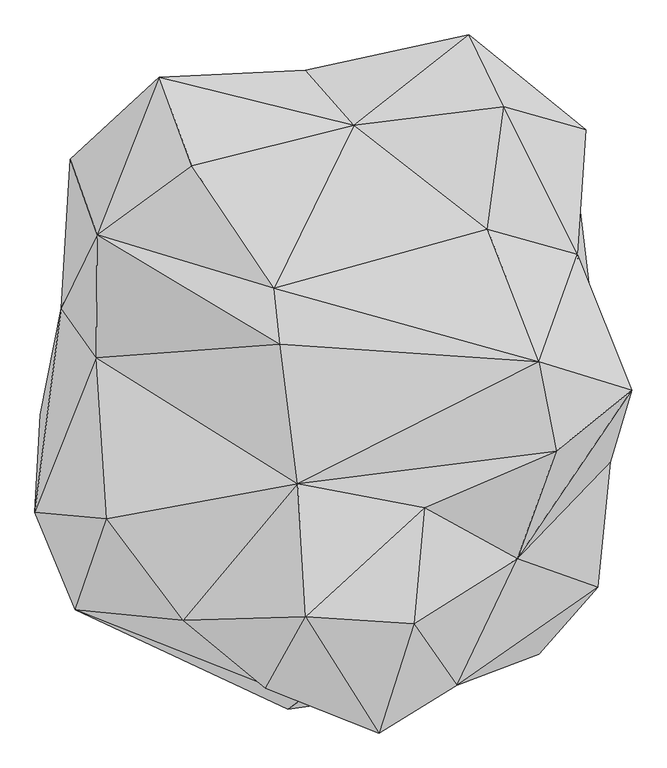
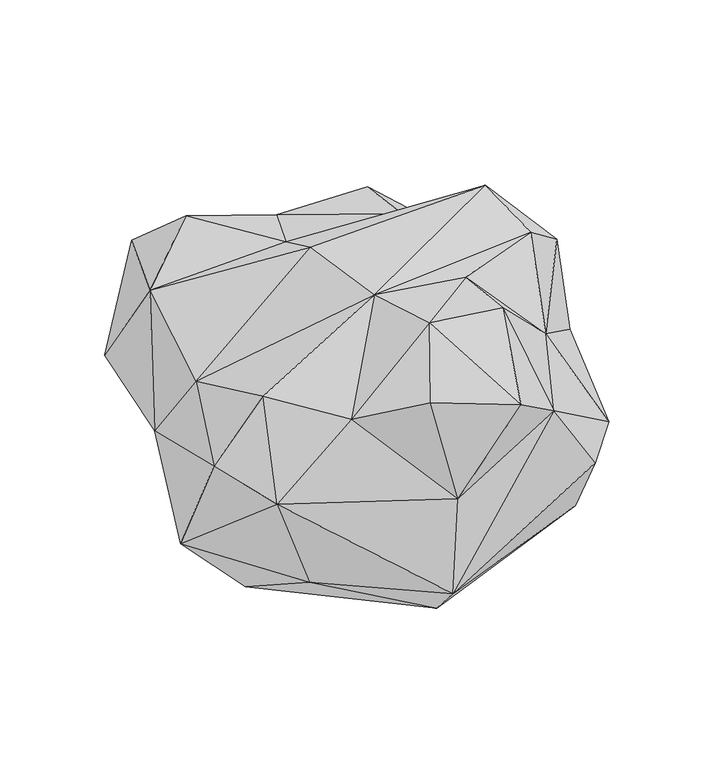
"""IFC4 building model written with IfcOpenShell, lengths in millimetres: geographic element geometry, Enscape AssetDefinition - Asparagaceae 001 Agave : Enscape AssetDefinition - Asparagaceae 001 Agave 2."""

from ifc_helpers import new_model, si_unit, origin, place, context, project, spatial, triangles, source, transform, mapped, element, save


def geographic_element_19c6f7b0(model_context):
    return source(origin(), model_context, "Body", "Tessellation", [
        triangles([(16.822162, 417.4084245, 63.8662734), (90.0067881, 83.3462117, 0.0), (-111.6196676, 270.3662733, 0.0), (239.4382011, 85.430514, 0.0), (173.173623, 556.4207969, 251.3887434), (72.341996, -49.7422172, 0.0), (-91.2387986, -418.7762552, 106.5872168), (302.5190709, -323.5726187, 176.2058507), (374.7595016, -43.7239073, 79.9119101), (-495.2339793, -30.2604735, 180.0659712), (-320.5206247, 427.7761783, 298.5197511), (-412.0061743, 40.5050176, 89.063786), (-376.1635583, -98.9306256, 68.2811883), (-325.9852258, -284.1118006, 174.2376205), (-99.3477877, -500.3124484, 196.8135681), (301.2844261, -412.4760947, 342.7063708), (-503.6264903, -185.9554554, 477.6111451), (-266.6909344, -358.3980366, 620.8636293), (-439.4118416, -342.0658576, 451.9769176), (-389.167125, -196.2933419, 624.6164526), (45.7223182, -538.6057506, 658.649041), (-77.9383932, -484.9647297, 426.0502298), (-71.3715247, -353.0729619, 800.0000061), (-405.8106949, 60.4784896, 514.5028613), (-461.5958799, 139.0452283, 357.7964745), (-404.2725257, 256.8836297, 630.5539536), (-305.1775569, 507.930152, 572.7960691), (-111.8664367, 82.0757951, 745.4638727), (-84.4061216, -140.9565125, 748.0018719), (-121.3321652, 170.7670475, 709.5040037), (6.0814982, 431.2802885, 576.7788202), (-253.5572157, 366.3517299, 704.7897566), (-302.7902753, 500.2044971, 378.8620854), (-447.4609869, 376.8720543, 404.5128817), (-71.6632584, 518.659657, 419.7307755), (189.810707, 575.3879531, 388.8560975), (218.6900126, 265.3987895, 605.8347502), (376.4731688, 424.1077249, 421.6971889), (245.6846403, 460.5231983, 547.1051591), (362.7958059, 225.510581, 509.4427414), (291.1192944, 452.6664468, 196.3388696), (449.7479476, 8.1157508, 614.9636261), (364.4218695, 319.2982793, 249.958798), (395.1691569, -306.1414879, 351.708256), (415.3710125, -106.64429, 462.9279934), (328.8881736, -89.2071912, 734.083172), (301.0840749, 54.0652319, 779.0806435), (266.9098346, -260.7151909, 596.3596745), (170.599525, -462.0551906, 553.1535181), (101.4831315, -363.8936314, 784.2554003), (118.6186953, -178.813831, 745.2403399), (-135.0501597, -467.2202823, 684.0325933)], [[21, 23, 52], [51, 29, 23], [21, 50, 23], [23, 50, 51], [50, 21, 49], [16, 44, 49], [44, 48, 49], [48, 51, 50], [50, 49, 48], [46, 29, 51], [51, 48, 46], [46, 47, 29], [47, 46, 42], [42, 46, 48], [9, 45, 44], [44, 45, 48], [42, 48, 45], [43, 45, 9], [4, 43, 9], [43, 4, 41], [43, 40, 45], [47, 42, 40], [45, 40, 42], [38, 40, 43], [43, 41, 38], [36, 38, 41], [36, 41, 5], [38, 39, 40], [39, 38, 36], [39, 37, 40], [47, 40, 37], [37, 39, 31], [39, 36, 31], [31, 36, 35], [36, 5, 35], [35, 5, 11], [33, 35, 11], [34, 33, 11], [27, 35, 33], [27, 33, 34], [27, 31, 35], [31, 27, 32], [30, 31, 32], [47, 37, 30], [31, 30, 37], [47, 28, 29], [47, 30, 28], [26, 27, 34], [28, 30, 26], [26, 32, 27], [30, 32, 26], [26, 34, 25], [11, 10, 25], [25, 34, 11], [28, 24, 29], [24, 28, 26], [26, 25, 24], [17, 25, 10], [25, 17, 24], [29, 24, 20], [24, 17, 20], [18, 29, 20], [23, 29, 18], [52, 23, 18], [49, 21, 22], [21, 52, 22], [52, 18, 22], [19, 18, 20], [18, 19, 22], [10, 19, 17], [17, 19, 20], [14, 19, 10], [15, 49, 22], [49, 15, 16], [15, 19, 14], [22, 19, 15], [8, 44, 16], [16, 15, 8], [44, 8, 9], [15, 14, 7], [8, 15, 7], [13, 7, 14], [14, 10, 13], [12, 13, 10], [10, 11, 12], [7, 6, 8], [12, 6, 13], [6, 4, 9], [9, 8, 6], [6, 7, 13], [3, 6, 12], [3, 12, 11], [2, 4, 6], [3, 2, 6], [11, 5, 1], [5, 41, 1], [41, 4, 1], [1, 3, 11], [1, 4, 2], [1, 2, 3]]),
    ])


if __name__ == "__main__":
    model = new_model("IFC4")
    model_context = context("Model", 3, world=origin())
    ifc_project = project(units=[si_unit("LENGTHUNIT", "METRE", prefix="MILLI")], contexts=[model_context])
    site = spatial("IfcSite", under=ifc_project)
    building = spatial("IfcBuilding", under=site)
    placement = place(None, origin())
    geographic_element_shape = geographic_element_19c6f7b0(model_context)
    element("IfcGeographicElement", 1, ObjectType="Enscape AssetDefinition - Asparagaceae 001 Agave : Enscape AssetDefinition - Asparagaceae 001 Agave 2", at=placement, inside=building, context=model_context, shape_type="MappedRepresentation", body=[
        mapped(geographic_element_shape, transform((0.0, 0.0, 0.0), x_axis=(1.0, 0.0, 0.0), y_axis=(0.0, 1.0, 0.0), z_axis=(0.0, 0.0, 1.0))),
    ])
    save(model, "model.ifc")
